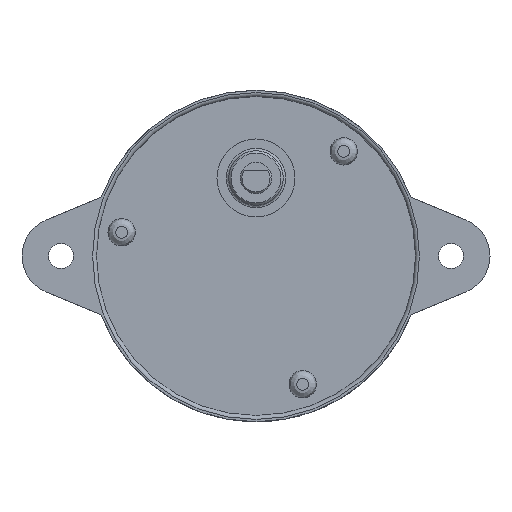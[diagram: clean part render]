
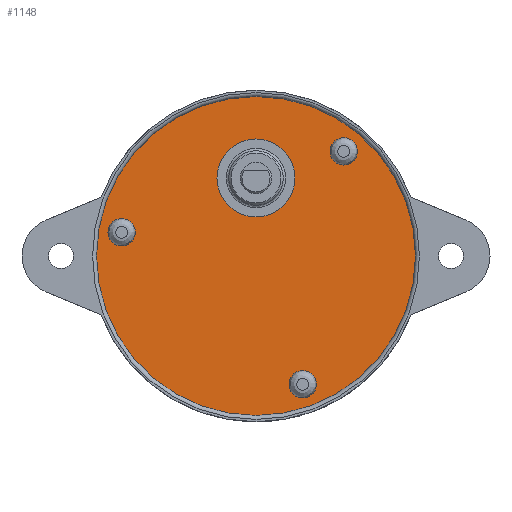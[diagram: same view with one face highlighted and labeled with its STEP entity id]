
A CAD part, front view. The second image highlights one B-rep face of the part: STEP entity #1148.
In plain terms, the highlighted planar face has unit normal (0, -1, 0).
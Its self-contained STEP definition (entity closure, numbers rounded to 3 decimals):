
#386=CARTESIAN_POINT('',(20.45,1.9,0.));
#387=VERTEX_POINT('',#386);
#388=CARTESIAN_POINT('',(0.0,1.9,0.0));
#389=DIRECTION('',(0.0,-1.0,0.0));
#390=DIRECTION('',(-1.0,0.0,0.0));
#391=AXIS2_PLACEMENT_3D('',#388,#389,#390);
#392=CIRCLE('',#391,20.45);
#393=EDGE_CURVE('',#387,#387,#392,.T.);
#583=CARTESIAN_POINT('',(5.11,1.9,-14.929));
#584=VERTEX_POINT('',#583);
#585=CARTESIAN_POINT('',(5.985,1.9,-16.445));
#586=DIRECTION('',(0.0,1.0,0.0));
#587=DIRECTION('',(0.5,0.0,-0.866));
#588=AXIS2_PLACEMENT_3D('',#585,#586,#587);
#589=CIRCLE('',#588,1.75);
#590=EDGE_CURVE('',#584,#584,#589,.T.);
#688=CARTESIAN_POINT('',(10.374,1.9,11.89));
#689=VERTEX_POINT('',#688);
#690=CARTESIAN_POINT('',(11.249,1.9,13.406));
#691=DIRECTION('',(0.0,1.,0.0));
#692=DIRECTION('',(0.5,0.0,0.866));
#693=AXIS2_PLACEMENT_3D('',#690,#691,#692);
#694=CIRCLE('',#693,1.75);
#695=EDGE_CURVE('',#689,#689,#694,.T.);
#793=CARTESIAN_POINT('',(-15.484,1.9,3.039));
#794=VERTEX_POINT('',#793);
#795=CARTESIAN_POINT('',(-17.234,1.9,3.039));
#796=DIRECTION('',(0.0,1.0,0.0));
#797=DIRECTION('',(-1.0,0.0,0.0));
#798=AXIS2_PLACEMENT_3D('',#795,#796,#797);
#799=CIRCLE('',#798,1.75);
#800=EDGE_CURVE('',#794,#794,#799,.T.);
#1116=CARTESIAN_POINT('',(5.0,1.9,10.0));
#1117=VERTEX_POINT('',#1116);
#1118=CARTESIAN_POINT('',(0.0,1.9,10.0));
#1119=DIRECTION('',(0.0,1.0,0.0));
#1120=DIRECTION('',(-1.0,0.0,0.0));
#1121=AXIS2_PLACEMENT_3D('',#1118,#1119,#1120);
#1122=CIRCLE('',#1121,5.0);
#1123=EDGE_CURVE('',#1117,#1117,#1122,.T.);
#1128=CARTESIAN_POINT('',(0.0,1.9,0.0));
#1129=DIRECTION('',(0.0,1.0,0.0));
#1130=DIRECTION('',(0.0,0.0,1.0));
#1131=AXIS2_PLACEMENT_3D('',#1128,#1129,#1130);
#1132=PLANE('',#1131);
#1133=ORIENTED_EDGE('',*,*,#393,.T.);
#1134=EDGE_LOOP('',(#1133));
#1135=FACE_OUTER_BOUND('',#1134,.T.);
#1136=ORIENTED_EDGE('',*,*,#590,.T.);
#1137=EDGE_LOOP('',(#1136));
#1138=FACE_BOUND('',#1137,.T.);
#1139=ORIENTED_EDGE('',*,*,#695,.T.);
#1140=EDGE_LOOP('',(#1139));
#1141=FACE_BOUND('',#1140,.T.);
#1142=ORIENTED_EDGE('',*,*,#800,.T.);
#1143=EDGE_LOOP('',(#1142));
#1144=FACE_BOUND('',#1143,.T.);
#1145=ORIENTED_EDGE('',*,*,#1123,.T.);
#1146=EDGE_LOOP('',(#1145));
#1147=FACE_BOUND('',#1146,.T.);
#1148=ADVANCED_FACE('',(#1135,#1138,#1141,#1144,#1147),#1132,.F.);
